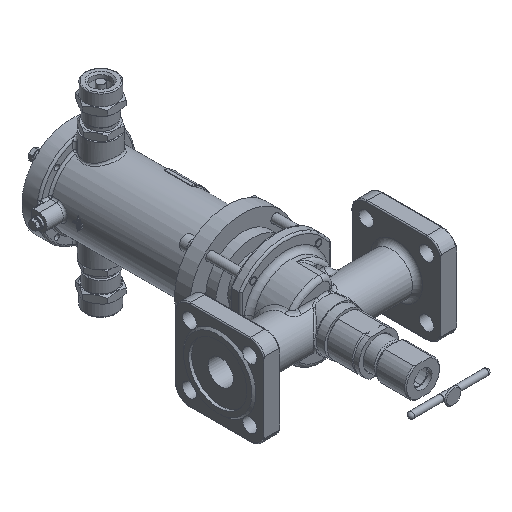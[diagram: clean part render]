
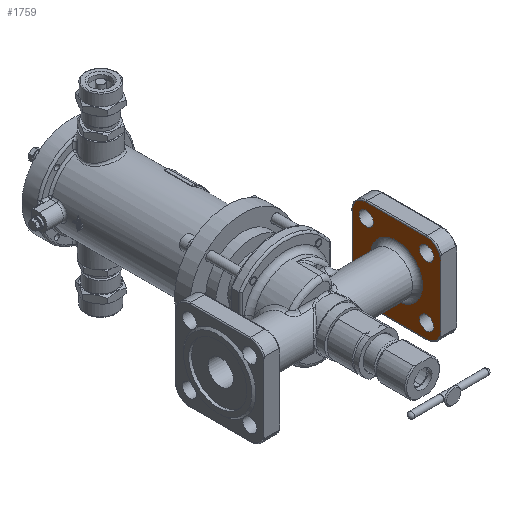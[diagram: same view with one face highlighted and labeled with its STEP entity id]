
A CAD part, isometric view. The second image highlights one B-rep face of the part: STEP entity #1759.
In plain terms, the highlighted planar face has unit normal (-1, 0, 0).
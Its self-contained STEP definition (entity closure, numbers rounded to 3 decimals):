
#1759=ADVANCED_FACE('',(#19470,#19472,#19474,#19476,#19478,#19480),#19482,.T.);
#19470=FACE_BOUND('',#19471,.T.);
#19471=EDGE_LOOP('',(#30395));
#19472=FACE_BOUND('',#19473,.T.);
#19473=EDGE_LOOP('',(#30396));
#19474=FACE_BOUND('',#19475,.T.);
#19475=EDGE_LOOP('',(#30397));
#19476=FACE_BOUND('',#19477,.T.);
#19477=EDGE_LOOP('',(#30398));
#19478=FACE_BOUND('',#19479,.T.);
#19479=EDGE_LOOP('',(#30399));
#19480=FACE_OUTER_BOUND('',#19481,.T.);
#19481=EDGE_LOOP('',(#30400,#30401,#30402,#30403,#30404,#30405,#30406,#30407));
#19482=PLANE('',#19483);
#19483=AXIS2_PLACEMENT_3D('',#19484,#19485,#19486);
#19484=CARTESIAN_POINT('',(80.,0.,0.));
#19485=DIRECTION('',(-1.,0.,0.));
#19486=DIRECTION('',(0.,1.,0.));
#30395=ORIENTED_EDGE('',*,*,#37807,.F.);
#30396=ORIENTED_EDGE('',*,*,#37854,.T.);
#30397=ORIENTED_EDGE('',*,*,#37855,.T.);
#30398=ORIENTED_EDGE('',*,*,#37856,.T.);
#30399=ORIENTED_EDGE('',*,*,#37857,.T.);
#30400=ORIENTED_EDGE('',*,*,#37858,.T.);
#30401=ORIENTED_EDGE('',*,*,#37859,.T.);
#30402=ORIENTED_EDGE('',*,*,#37860,.T.);
#30403=ORIENTED_EDGE('',*,*,#37861,.T.);
#30404=ORIENTED_EDGE('',*,*,#37862,.T.);
#30405=ORIENTED_EDGE('',*,*,#37863,.T.);
#30406=ORIENTED_EDGE('',*,*,#37864,.T.);
#30407=ORIENTED_EDGE('',*,*,#37865,.T.);
#37807=EDGE_CURVE('',#45643,#45643,#45645,.T.);
#37854=EDGE_CURVE('',#45714,#45714,#45715,.T.);
#37855=EDGE_CURVE('',#45716,#45716,#45717,.T.);
#37856=EDGE_CURVE('',#45718,#45718,#45719,.T.);
#37857=EDGE_CURVE('',#45720,#45720,#45721,.T.);
#37858=EDGE_CURVE('',#45722,#45723,#45724,.F.);
#37859=EDGE_CURVE('',#45723,#45725,#45726,.F.);
#37860=EDGE_CURVE('',#45725,#45727,#45728,.T.);
#37861=EDGE_CURVE('',#45727,#45729,#45730,.F.);
#37862=EDGE_CURVE('',#45729,#45731,#45732,.T.);
#37863=EDGE_CURVE('',#45731,#45733,#45734,.F.);
#37864=EDGE_CURVE('',#45733,#45735,#45736,.T.);
#37865=EDGE_CURVE('',#45735,#45722,#45737,.F.);
#45643=VERTEX_POINT('',#71530);
#45645=CIRCLE('',#71535,26.);
#45714=VERTEX_POINT('',#71950);
#45715=CIRCLE('',#71951,7.);
#45716=VERTEX_POINT('',#71955);
#45717=CIRCLE('',#71956,7.);
#45718=VERTEX_POINT('',#71960);
#45719=CIRCLE('',#71961,7.);
#45720=VERTEX_POINT('',#71965);
#45721=CIRCLE('',#71966,7.);
#45722=VERTEX_POINT('',#71970);
#45723=VERTEX_POINT('',#71971);
#45724=LINE('',#71972,#71973);
#45725=VERTEX_POINT('',#71975);
#45726=CIRCLE('',#71976,14.);
#45727=VERTEX_POINT('',#71980);
#45728=LINE('',#71981,#71982);
#45729=VERTEX_POINT('',#71984);
#45730=CIRCLE('',#71985,14.);
#45731=VERTEX_POINT('',#71989);
#45732=LINE('',#71990,#71991);
#45733=VERTEX_POINT('',#71993);
#45734=CIRCLE('',#71994,14.);
#45735=VERTEX_POINT('',#71998);
#45736=LINE('',#71999,#72000);
#45737=CIRCLE('',#72002,14.);
#71530=CARTESIAN_POINT('',(80.,26.,0.));
#71535=AXIS2_PLACEMENT_3D('',#71536,#71537,#71538);
#71536=CARTESIAN_POINT('',(80.,0.,0.));
#71537=DIRECTION('',(-1.,0.,0.));
#71538=DIRECTION('',(0.,1.,0.));
#71950=CARTESIAN_POINT('',(80.,30.052,37.052));
#71951=AXIS2_PLACEMENT_3D('',#71952,#71953,#71954);
#71952=CARTESIAN_POINT('',(80.,30.052,30.052));
#71953=DIRECTION('',(1.,-0.,0.));
#71954=DIRECTION('',(0.,0.,1.));
#71955=CARTESIAN_POINT('',(80.,-30.052,37.052));
#71956=AXIS2_PLACEMENT_3D('',#71957,#71958,#71959);
#71957=CARTESIAN_POINT('',(80.,-30.052,30.052));
#71958=DIRECTION('',(1.,-0.,0.));
#71959=DIRECTION('',(0.,0.,1.));
#71960=CARTESIAN_POINT('',(80.,-30.052,-23.052));
#71961=AXIS2_PLACEMENT_3D('',#71962,#71963,#71964);
#71962=CARTESIAN_POINT('',(80.,-30.052,-30.052));
#71963=DIRECTION('',(1.,-0.,0.));
#71964=DIRECTION('',(0.,0.,1.));
#71965=CARTESIAN_POINT('',(80.,30.052,-23.052));
#71966=AXIS2_PLACEMENT_3D('',#71967,#71968,#71969);
#71967=CARTESIAN_POINT('',(80.,30.052,-30.052));
#71968=DIRECTION('',(1.,-0.,0.));
#71969=DIRECTION('',(0.,0.,1.));
#71970=CARTESIAN_POINT('',(80.,-44.,-30.));
#71971=CARTESIAN_POINT('',(80.,-44.,30.));
#71972=CARTESIAN_POINT('',(80.,-44.,30.));
#71973=VECTOR('',#71974,1.);
#71974=DIRECTION('',(0.,0.,-1.));
#71975=CARTESIAN_POINT('',(80.,-30.,44.));
#71976=AXIS2_PLACEMENT_3D('',#71977,#71978,#71979);
#71977=CARTESIAN_POINT('',(80.,-30.,30.));
#71978=DIRECTION('',(1.,0.,0.));
#71979=DIRECTION('',(0.,0.,1.));
#71980=CARTESIAN_POINT('',(80.,30.,44.));
#71981=CARTESIAN_POINT('',(80.,-30.,44.));
#71982=VECTOR('',#71983,1.);
#71983=DIRECTION('',(0.,1.,0.));
#71984=CARTESIAN_POINT('',(80.,44.,30.));
#71985=AXIS2_PLACEMENT_3D('',#71986,#71987,#71988);
#71986=CARTESIAN_POINT('',(80.,30.,30.));
#71987=DIRECTION('',(1.,0.,0.));
#71988=DIRECTION('',(0.,1.,0.));
#71989=CARTESIAN_POINT('',(80.,44.,-30.));
#71990=CARTESIAN_POINT('',(80.,44.,30.));
#71991=VECTOR('',#71992,1.);
#71992=DIRECTION('',(0.,0.,-1.));
#71993=CARTESIAN_POINT('',(80.,30.,-44.));
#71994=AXIS2_PLACEMENT_3D('',#71995,#71996,#71997);
#71995=CARTESIAN_POINT('',(80.,30.,-30.));
#71996=DIRECTION('',(1.,0.,0.));
#71997=DIRECTION('',(0.,0.,-1.));
#71998=CARTESIAN_POINT('',(80.,-30.,-44.));
#71999=CARTESIAN_POINT('',(80.,30.,-44.));
#72000=VECTOR('',#72001,1.);
#72001=DIRECTION('',(0.,-1.,0.));
#72002=AXIS2_PLACEMENT_3D('',#72003,#72004,#72005);
#72003=CARTESIAN_POINT('',(80.,-30.,-30.));
#72004=DIRECTION('',(1.,0.,0.));
#72005=DIRECTION('',(0.,-1.,0.));
